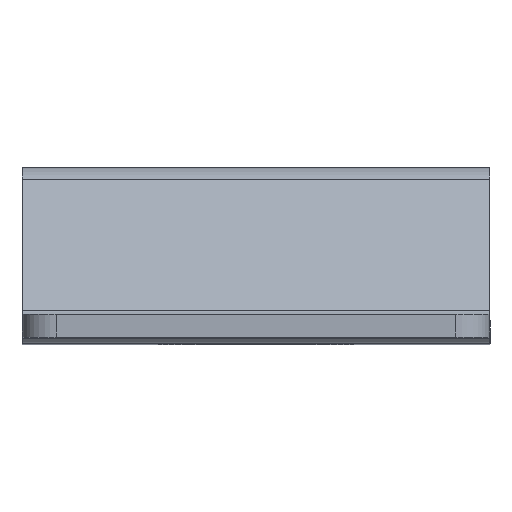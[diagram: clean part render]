
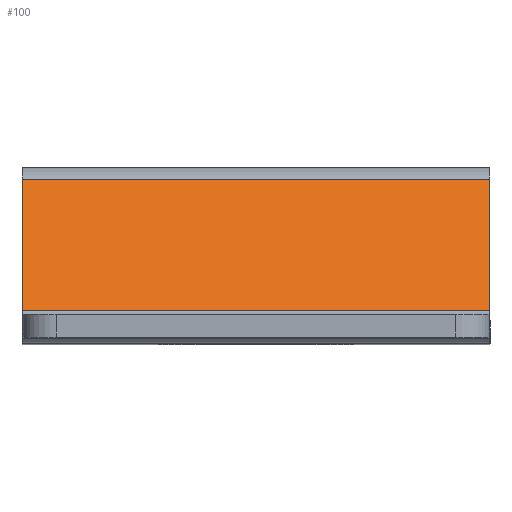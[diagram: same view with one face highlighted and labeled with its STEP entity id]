
A CAD part, top view. The second image highlights one B-rep face of the part: STEP entity #100.
In plain terms, the highlighted planar face has unit normal (0, 0.707, 0.707).
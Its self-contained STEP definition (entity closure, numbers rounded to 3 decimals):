
#100=ADVANCED_FACE('',(#1235),#1237,.F.);
#1235=FACE_BOUND('',#1236,.T.);
#1236=EDGE_LOOP('',(#4928,#4929,#4930,#4931));
#1237=PLANE('',#1238);
#1238=AXIS2_PLACEMENT_3D('',#1239,#1240,#1241);
#1239=CARTESIAN_POINT('',(-41.,169.958,71.492));
#1240=DIRECTION('',(0.,-0.707,-0.707));
#1241=DIRECTION('',(1.,0.,0.));
#4928=ORIENTED_EDGE('',*,*,#5223,.T.);
#4929=ORIENTED_EDGE('',*,*,#5239,.F.);
#4930=ORIENTED_EDGE('',*,*,#5240,.T.);
#4931=ORIENTED_EDGE('',*,*,#5241,.F.);
#5223=EDGE_CURVE('',#5493,#5494,#5495,.T.);
#5239=EDGE_CURVE('',#5517,#5494,#5518,.T.);
#5240=EDGE_CURVE('',#5517,#5519,#5520,.T.);
#5241=EDGE_CURVE('',#5493,#5519,#5521,.T.);
#5493=VERTEX_POINT('',#6055);
#5494=VERTEX_POINT('',#6056);
#5495=LINE('',#6057,#6058);
#5517=VERTEX_POINT('',#6113);
#5518=LINE('',#6114,#6115);
#5519=VERTEX_POINT('',#6117);
#5520=LINE('',#6118,#6119);
#5521=LINE('',#6121,#6122);
#6055=CARTESIAN_POINT('',(0.,-1.025,242.475));
#6056=CARTESIAN_POINT('',(-41.,-1.025,242.475));
#6057=CARTESIAN_POINT('',(0.,-1.025,242.475));
#6058=VECTOR('',#6059,1.);
#6059=DIRECTION('',(-1.,0.,0.));
#6113=CARTESIAN_POINT('',(-41.,-12.551,254.001));
#6114=CARTESIAN_POINT('',(-41.,-12.551,254.001));
#6115=VECTOR('',#6116,1.);
#6116=DIRECTION('',(0.,0.707,-0.707));
#6117=CARTESIAN_POINT('',(0.,-12.551,254.001));
#6118=CARTESIAN_POINT('',(-41.,-12.551,254.001));
#6119=VECTOR('',#6120,1.);
#6120=DIRECTION('',(1.,0.,0.));
#6121=CARTESIAN_POINT('',(0.,-1.025,242.475));
#6122=VECTOR('',#6123,1.);
#6123=DIRECTION('',(0.,-0.707,0.707));
